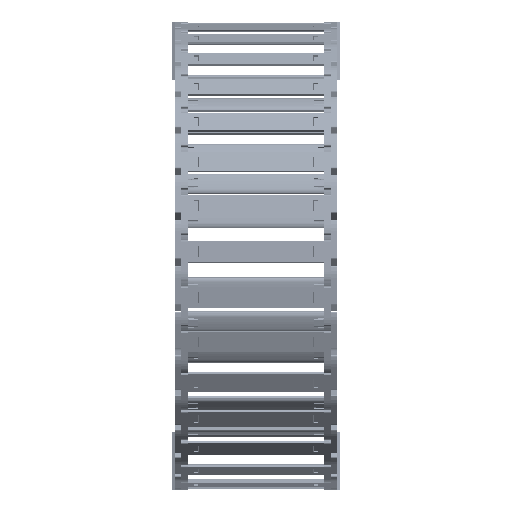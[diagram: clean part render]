
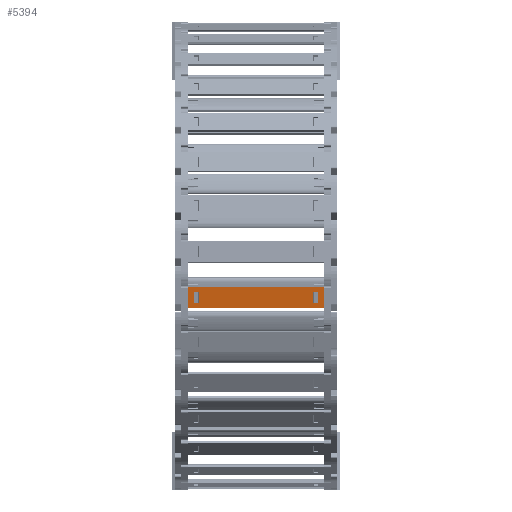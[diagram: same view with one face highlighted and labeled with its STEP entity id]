
A CAD part, left-side view. The second image highlights one B-rep face of the part: STEP entity #5394.
In plain terms, the highlighted planar face has unit normal (-0.984, 0, -0.177) as drawn and (0, 1, 0) by its records, which use the part's own axes.
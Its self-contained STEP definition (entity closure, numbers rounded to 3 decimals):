
#4814=DIRECTION('',(0.,0.,1.));
#4815=VECTOR('',#4814,15.8);
#4816=CARTESIAN_POINT('',(85.74,1.5,-7.9));
#4817=LINE('',#4816,#4815);
#4818=DIRECTION('',(-1.,0.,0.));
#4819=VECTOR('',#4818,100.5);
#4820=CARTESIAN_POINT('',(85.74,1.5,7.9));
#4821=LINE('',#4820,#4819);
#4822=DIRECTION('',(0.,0.,-1.));
#4823=VECTOR('',#4822,15.8);
#4824=CARTESIAN_POINT('',(-14.76,1.5,7.9));
#4825=LINE('',#4824,#4823);
#4826=DIRECTION('',(1.,0.,0.));
#4827=VECTOR('',#4826,3.648);
#4828=CARTESIAN_POINT('',(78.122,1.5,4.075));
#4829=LINE('',#4828,#4827);
#4830=DIRECTION('',(0.,0.,-1.));
#4831=VECTOR('',#4830,8.15);
#4832=CARTESIAN_POINT('',(81.77,1.5,4.075));
#4833=LINE('',#4832,#4831);
#4834=DIRECTION('',(-1.,0.,0.));
#4835=VECTOR('',#4834,3.648);
#4836=CARTESIAN_POINT('',(81.77,1.5,-4.075));
#4837=LINE('',#4836,#4835);
#4838=DIRECTION('',(0.,0.,-1.));
#4839=VECTOR('',#4838,8.15);
#4840=CARTESIAN_POINT('',(-7.142,1.5,4.075));
#4841=LINE('',#4840,#4839);
#4842=DIRECTION('',(-1.,0.,0.));
#4843=VECTOR('',#4842,3.648);
#4844=CARTESIAN_POINT('',(-7.142,1.5,-4.075));
#4845=LINE('',#4844,#4843);
#4846=DIRECTION('',(0.,0.,1.));
#4847=VECTOR('',#4846,8.15);
#4848=CARTESIAN_POINT('',(-10.79,1.5,-4.075));
#4849=LINE('',#4848,#4847);
#4850=DIRECTION('',(1.,0.,0.));
#4851=VECTOR('',#4850,3.648);
#4852=CARTESIAN_POINT('',(-10.79,1.5,4.075));
#4853=LINE('',#4852,#4851);
#4858=DIRECTION('',(-1.,0.,0.));
#4859=VECTOR('',#4858,100.5);
#4860=CARTESIAN_POINT('',(85.74,1.5,-7.9));
#4861=LINE('',#4860,#4859);
#4979=DIRECTION('',(0.,0.,-1.));
#4980=VECTOR('',#4979,8.15);
#4981=CARTESIAN_POINT('',(78.122,1.5,4.075));
#4982=LINE('',#4981,#4980);
#5164=CARTESIAN_POINT('',(81.77,1.5,4.075));
#5165=VERTEX_POINT('',#5164);
#5166=CARTESIAN_POINT('',(78.122,1.5,4.075));
#5167=VERTEX_POINT('',#5166);
#5208=CARTESIAN_POINT('',(78.122,1.5,-4.075));
#5209=VERTEX_POINT('',#5208);
#5210=CARTESIAN_POINT('',(81.77,1.5,-4.075));
#5211=VERTEX_POINT('',#5210);
#5212=CARTESIAN_POINT('',(85.74,1.5,7.9));
#5214=VERTEX_POINT('',#5212);
#5216=CARTESIAN_POINT('',(85.74,1.5,-7.9));
#5217=VERTEX_POINT('',#5216);
#5240=CARTESIAN_POINT('',(-7.142,1.5,4.075));
#5241=CARTESIAN_POINT('',(-7.142,1.5,-4.075));
#5242=VERTEX_POINT('',#5240);
#5243=VERTEX_POINT('',#5241);
#5244=CARTESIAN_POINT('',(-10.79,1.5,-4.075));
#5245=VERTEX_POINT('',#5244);
#5246=CARTESIAN_POINT('',(-10.79,1.5,4.075));
#5247=VERTEX_POINT('',#5246);
#5248=CARTESIAN_POINT('',(-14.76,1.5,7.9));
#5249=VERTEX_POINT('',#5248);
#5252=CARTESIAN_POINT('',(-14.76,1.5,-7.9));
#5253=VERTEX_POINT('',#5252);
#5363=CARTESIAN_POINT('',(117.48,1.5,10.061));
#5364=DIRECTION('',(0.,-1.,0.));
#5365=DIRECTION('',(0.,0.,-1.));
#5366=AXIS2_PLACEMENT_3D('',#5363,#5364,#5365);
#5367=PLANE('',#5366);
#5368=ORIENTED_EDGE('',*,*,#5302,.T.);
#5369=ORIENTED_EDGE('',*,*,#5328,.T.);
#5370=ORIENTED_EDGE('',*,*,#5341,.T.);
#5372=ORIENTED_EDGE('',*,*,#5371,.F.);
#5373=EDGE_LOOP('',(#5368,#5369,#5370,#5372));
#5374=FACE_OUTER_BOUND('',#5373,.F.);
#5376=ORIENTED_EDGE('',*,*,#5375,.F.);
#5377=ORIENTED_EDGE('',*,*,#5265,.T.);
#5379=ORIENTED_EDGE('',*,*,#5378,.T.);
#5381=ORIENTED_EDGE('',*,*,#5380,.T.);
#5382=EDGE_LOOP('',(#5376,#5377,#5379,#5381));
#5383=FACE_BOUND('',#5382,.F.);
#5385=ORIENTED_EDGE('',*,*,#5384,.T.);
#5387=ORIENTED_EDGE('',*,*,#5386,.T.);
#5389=ORIENTED_EDGE('',*,*,#5388,.T.);
#5391=ORIENTED_EDGE('',*,*,#5390,.T.);
#5392=EDGE_LOOP('',(#5385,#5387,#5389,#5391));
#5393=FACE_BOUND('',#5392,.F.);
#5394=ADVANCED_FACE('',(#5374,#5383,#5393),#5367,.F.);
#5265=EDGE_CURVE('',#5167,#5165,#4829,.T.);
#5302=EDGE_CURVE('',#5217,#5214,#4817,.T.);
#5328=EDGE_CURVE('',#5214,#5249,#4821,.T.);
#5341=EDGE_CURVE('',#5249,#5253,#4825,.T.);
#5371=EDGE_CURVE('',#5217,#5253,#4861,.T.);
#5375=EDGE_CURVE('',#5167,#5209,#4982,.T.);
#5378=EDGE_CURVE('',#5165,#5211,#4833,.T.);
#5380=EDGE_CURVE('',#5211,#5209,#4837,.T.);
#5384=EDGE_CURVE('',#5242,#5243,#4841,.T.);
#5386=EDGE_CURVE('',#5243,#5245,#4845,.T.);
#5388=EDGE_CURVE('',#5245,#5247,#4849,.T.);
#5390=EDGE_CURVE('',#5247,#5242,#4853,.T.);
